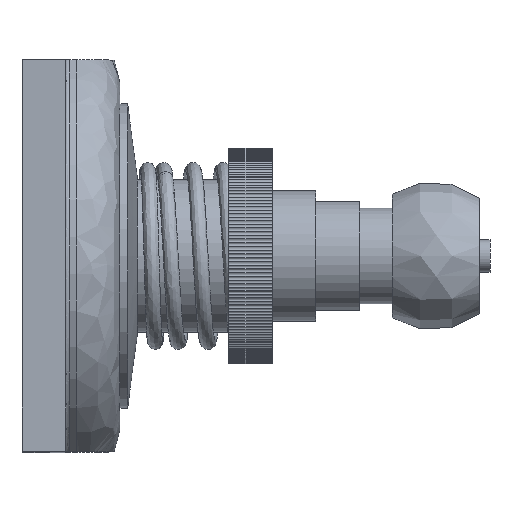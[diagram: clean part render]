
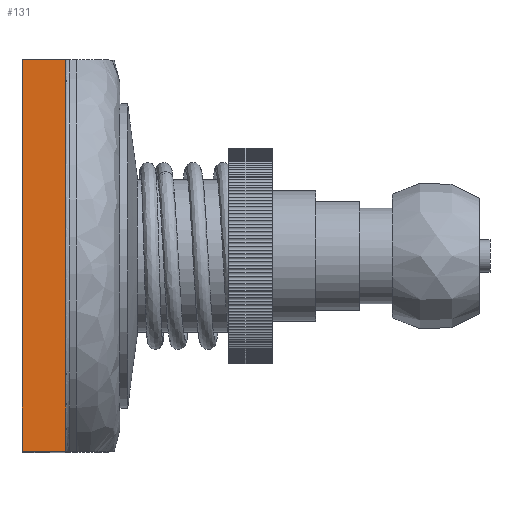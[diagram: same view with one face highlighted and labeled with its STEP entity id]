
A CAD part, top view. The second image highlights one B-rep face of the part: STEP entity #131.
In plain terms, the highlighted planar face has unit normal (0, 0, 1).
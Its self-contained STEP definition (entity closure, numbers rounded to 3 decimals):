
#131 = ADVANCED_FACE ( 'NONE', ( #3863 ), #11407, .T. ) ;
#279 = ORIENTED_EDGE ( 'NONE', *, *, #3382, .F. ) ;
#371 = ORIENTED_EDGE ( 'NONE', *, *, #3378, .T. ) ;
#372 = ORIENTED_EDGE ( 'NONE', *, *, #3231, .T. ) ;
#395 = ORIENTED_EDGE ( 'NONE', *, *, #3375, .F. ) ;
#1492 = DIRECTION ( 'NONE',  ( 0., 1., 0. ) ) ;
#1496 = CARTESIAN_POINT ( 'NONE',  ( 2., 9., 21.5 ) ) ;
#1756 = DIRECTION ( 'NONE',  ( -1., 0., 0. ) ) ;
#1761 = CARTESIAN_POINT ( 'NONE',  ( 0., -9., 21.5 ) ) ;
#1768 = CARTESIAN_POINT ( 'NONE',  ( 0., 0., 21.5 ) ) ;
#1772 = DIRECTION ( 'NONE',  ( 0., -1., 0. ) ) ;
#1777 = CARTESIAN_POINT ( 'NONE',  ( 0., 9., 21.5 ) ) ;
#1778 = DIRECTION ( 'NONE',  ( 1., 0., 0. ) ) ;
#1908 = AXIS2_PLACEMENT_3D ( 'NONE', #11432, #11433, #11434 ) ;
#2321 = VERTEX_POINT ( 'NONE', #7689 ) ;
#2339 = VERTEX_POINT ( 'NONE', #7693 ) ;
#2641 = VERTEX_POINT ( 'NONE', #7753 ) ;
#2961 = VERTEX_POINT ( 'NONE', #7821 ) ;
#3112 = EDGE_LOOP ( 'NONE', ( #372, #279, #371, #395 ) ) ;
#3231 = EDGE_CURVE ( 'NONE', #2321, #2961, #8435, .T. ) ;
#3375 = EDGE_CURVE ( 'NONE', #2321, #2641, #8334, .T. ) ;
#3378 = EDGE_CURVE ( 'NONE', #2339, #2641, #8332, .T. ) ;
#3382 = EDGE_CURVE ( 'NONE', #2339, #2961, #8363, .T. ) ;
#3863 = FACE_OUTER_BOUND ( 'NONE', #3112, .T. ) ;
#7689 = CARTESIAN_POINT ( 'NONE',  ( 2., -9., 21.5 ) ) ;
#7693 = CARTESIAN_POINT ( 'NONE',  ( 0., 9., 21.5 ) ) ;
#7753 = CARTESIAN_POINT ( 'NONE',  ( 0., -9., 21.5 ) ) ;
#7821 = CARTESIAN_POINT ( 'NONE',  ( 2., 9., 21.5 ) ) ;
#8332 = LINE ( 'NONE', #1768, #8360 ) ;
#8334 = LINE ( 'NONE', #1761, #8346 ) ;
#8346 = VECTOR ( 'NONE', #1756, 1000. ) ;
#8360 = VECTOR ( 'NONE', #1772, 1000. ) ;
#8363 = LINE ( 'NONE', #1777, #8375 ) ;
#8375 = VECTOR ( 'NONE', #1778, 1000. ) ;
#8430 = VECTOR ( 'NONE', #1492, 1000. ) ;
#8435 = LINE ( 'NONE', #1496, #8430 ) ;
#11407 = PLANE ( 'NONE',  #1908 ) ;
#11432 = CARTESIAN_POINT ( 'NONE',  ( 0., 9., 21.5 ) ) ;
#11433 = DIRECTION ( 'NONE',  ( 0., 0., 1. ) ) ;
#11434 = DIRECTION ( 'NONE',  ( 1., 0., 0. ) ) ;
